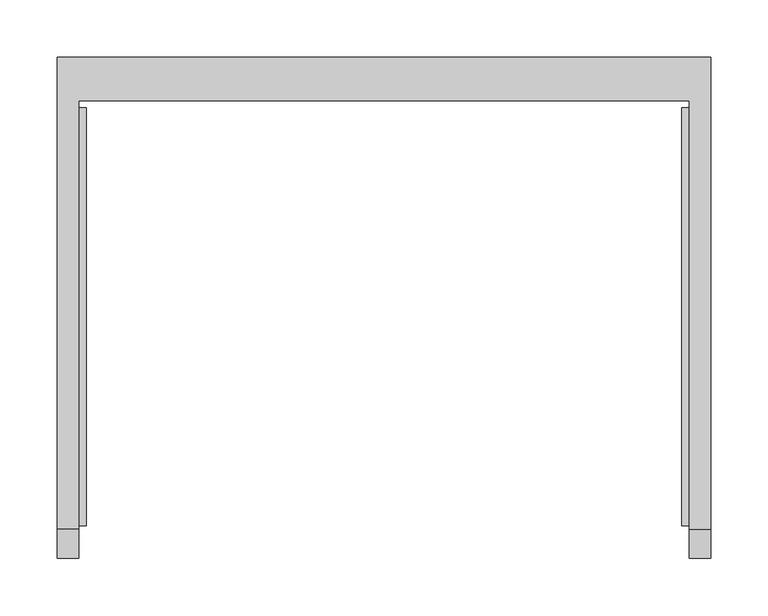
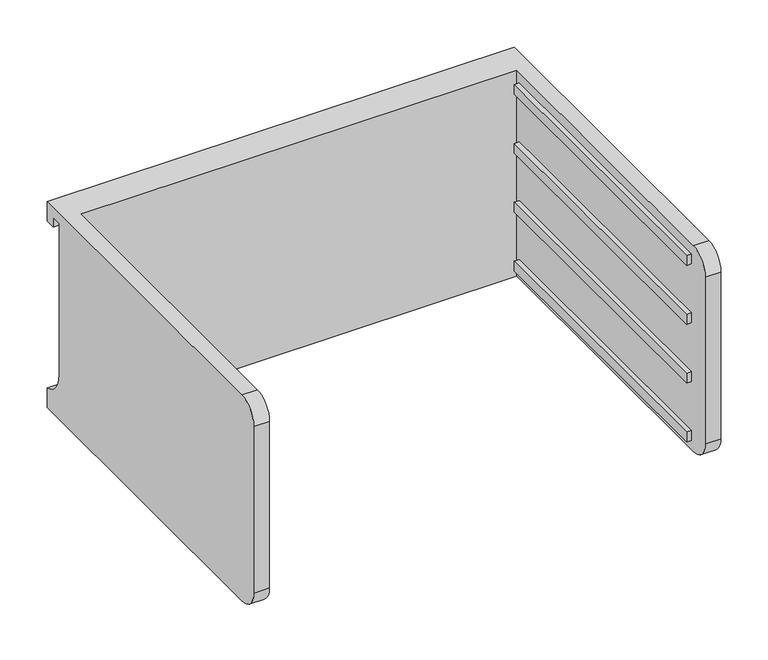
"""IFC4 building model written with IfcOpenShell, lengths in millimetres: furniture geometry."""

from ifc_helpers import new_model, si_unit, frame, origin, place, context, project, spatial, polyline, circle_curve, outline, extrude, source, transform, mapped, element, save
from ifc_brep_helpers import plane_surface, cylinder_surface, revolved_surface, advanced_brep


def furniture_2c2a0f93(model_context):
    return source(origin(), model_context, "Body", "SolidModel", [
        advanced_brep(
        [(-171.7622951, -331.6523397, 779.29232), (-171.7622951, -357.0523397, 753.89232), (-171.7622951, -357.0523397, 537.99232), (-171.7622951, -331.6523397, 512.59232), (-171.7622951, 43.0421197, 512.59232), (-171.7622951, 43.0421197, 779.29232), (-190.8122951, -331.6523397, 512.59232), (-190.8122951, -357.0523397, 537.99232), (-190.8122951, -357.0523397, 753.89232), (-190.8122951, -331.6523397, 779.29232), (-190.8122951, 81.0976603, 779.29232), (-190.8122951, 81.0976603, 753.89232), (-190.8122951, 68.4421197, 753.89232), (-190.8122951, 68.4421197, 766.59232), (-190.8122951, 55.7421197, 766.59232), (-190.8122951, 55.7421197, 570.53734), (-190.8122951, 81.0976603, 537.99232), (-190.8122951, 81.0976603, 512.59232), (380.6877049, 81.0976603, 512.59232), (380.6877049, -331.6523397, 512.59232), (361.6377049, -331.6523397, 512.59232), (361.6377049, 43.0421197, 512.59232), (361.6377049, 43.0421197, 779.29232), (361.6377049, -331.6523397, 779.29232), (380.6877049, -331.6523397, 779.29232), (380.6877049, 81.0976603, 779.29232), (380.6877049, 81.0976603, 537.99232), (380.6877049, 55.7421197, 570.53734), (380.6877049, 55.7421197, 766.59232), (380.6877049, 68.4421197, 766.59232), (380.6877049, 68.4421197, 753.89232), (380.6877049, 81.0976603, 753.89232), (380.6877049, -357.0523397, 753.89232), (380.6877049, -357.0523397, 537.99232), (361.6377049, -357.0523397, 537.99232), (361.6377049, -357.0523397, 753.89232)],
        [
            (0, 1, circle_curve(frame((-171.7622951, -331.6523397, 753.89232), z_axis=(1.0, 0.0, 0.0), x_axis=(0.0, 0.0, 1.0)), 25.4)),
            (1, 2),
            (2, 3, circle_curve(frame((-171.7622951, -331.6523397, 537.99232), z_axis=(1.0, 0.0, 0.0), x_axis=(0.0, 0.0, 1.0)), 25.4)),
            (3, 4),
            (4, 5),
            (5, 0),
            (6, 7, circle_curve(frame((-190.8122951, -331.6523397, 537.99232), z_axis=(-1.0, 0.0, 0.0), x_axis=(0.0, 0.0, 1.0)), 25.4)),
            (7, 8),
            (8, 9, circle_curve(frame((-190.8122951, -331.6523397, 753.89232), z_axis=(-1.0, 0.0, 0.0), x_axis=(0.0, 0.0, 1.0)), 25.4)),
            (9, 10),
            (10, 11),
            (11, 12),
            (12, 13),
            (13, 14),
            (14, 15),
            (15, 16, circle_curve(frame((-190.8122951, 89.3064162, 570.53734), z_axis=(1.0, 0.0, 0.0), x_axis=(0.0, 0.0, 1.0)), 33.5642965)),
            (16, 17),
            (17, 6),
            (0, 9),
            (8, 1),
            (7, 2),
            (6, 3),
            (17, 18),
            (18, 19),
            (19, 20),
            (20, 21),
            (21, 4),
            (5, 22),
            (22, 23),
            (23, 24),
            (24, 25),
            (25, 10),
            (18, 26),
            (26, 27, circle_curve(frame((380.6877049, 89.3064162, 570.53734), z_axis=(-1.0, 0.0, 0.0), x_axis=(0.0, 0.0, 1.0)), 33.5642965)),
            (27, 28),
            (28, 29),
            (29, 30),
            (30, 31),
            (31, 25),
            (24, 32, circle_curve(frame((380.6877049, -331.6523397, 753.89232), z_axis=(1.0, 0.0, 0.0), x_axis=(0.0, 0.0, 1.0)), 25.4)),
            (32, 33),
            (33, 19, circle_curve(frame((380.6877049, -331.6523397, 537.99232), z_axis=(1.0, 0.0, 0.0), x_axis=(0.0, 0.0, 1.0)), 25.4)),
            (16, 26),
            (15, 27),
            (14, 28),
            (13, 29),
            (12, 30),
            (11, 31),
            (21, 22),
            (20, 34, circle_curve(frame((361.6377049, -331.6523397, 537.99232), z_axis=(-1.0, 0.0, 0.0), x_axis=(0.0, 0.0, 1.0)), 25.4)),
            (34, 35),
            (35, 23, circle_curve(frame((361.6377049, -331.6523397, 753.89232), z_axis=(-1.0, 0.0, 0.0), x_axis=(0.0, 0.0, 1.0)), 25.4)),
            (35, 32),
            (34, 33),
        ],
        [
            plane_surface(frame((-171.7622951, -331.6523397, 779.29232), z_axis=(1.0, 0.0, 0.0), x_axis=(0.0, -1.0, 0.0))),
            plane_surface(frame((-190.8122951, -331.6523397, 779.29232), z_axis=(-1.0, 0.0, 0.0), x_axis=(0.0, 1.0, 0.0))),
            cylinder_surface(frame((-190.8122951, -331.6523397, 753.89232), z_axis=(1.0, 0.0, 0.0), x_axis=(0.0, 0.0, 1.0)), 25.4),
            plane_surface(frame((-171.7622951, -357.0523397, 753.89232), z_axis=(0.0, -1.0, 0.0), x_axis=(-1.0, 0.0, 0.0))),
            cylinder_surface(frame((-190.8122951, -331.6523397, 537.99232), z_axis=(1.0, 0.0, 0.0), x_axis=(0.0, 0.0, 1.0)), 25.4),
            plane_surface(frame((-171.7622951, -331.6523397, 512.59232), z_axis=(0.0, 0.0, -1.0), x_axis=(-1.0, 0.0, 0.0))),
            plane_surface(frame((-171.7622951, 43.0421197, 779.29232), z_axis=(0.0, 0.0, 1.0), x_axis=(-1.0, 0.0, 0.0))),
            plane_surface(frame((380.6877049, 81.0976603, 537.99232), z_axis=(1.0, 0.0, 0.0), x_axis=(0.0, 0.0, 1.0))),
            plane_surface(frame((380.6877049, 81.0976603, 512.59232), z_axis=(0.0, 1.0, 0.0), x_axis=(-1.0, 0.0, 0.0))),
            revolved_surface(polyline([(-190.8122951, 89.3064162, 604.1016364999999), (380.68770489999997, 89.3064162, 604.1016364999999)]), (-190.8122951, 89.3064162, 570.53734), (-1.0, 0.0, 0.0)),
            plane_surface(frame((380.6877049, 55.7421197, 570.53734), z_axis=(0.0, 1.0, 0.0), x_axis=(-1.0, 0.0, 0.0))),
            plane_surface(frame((380.6877049, 55.7421197, 766.59232), z_axis=(0.0, 0.0, -1.0), x_axis=(-1.0, 0.0, 0.0))),
            plane_surface(frame((380.6877049, 68.4421197, 766.59232), z_axis=(0.0, -1.0, 0.0), x_axis=(-1.0, 0.0, 0.0))),
            plane_surface(frame((380.6877049, 68.4421197, 753.89232), z_axis=(0.0, 0.0, -1.0), x_axis=(-1.0, 0.0, 0.0))),
            plane_surface(frame((380.6877049, 81.0976603, 753.89232), z_axis=(0.0, 1.0, 0.0), x_axis=(-1.0, 0.0, 0.0))),
            plane_surface(frame((380.6877049, 43.0421197, 779.29232), z_axis=(0.0, -1.0, 0.0), x_axis=(-1.0, 0.0, 0.0))),
            plane_surface(frame((361.6377049, -331.6523397, 779.29232), z_axis=(-1.0, 0.0, 0.0), x_axis=(0.0, 1.0, 0.0))),
            cylinder_surface(frame((361.6377049, -331.6523397, 753.89232), z_axis=(1.0, 0.0, 0.0), x_axis=(0.0, 0.0, 1.0)), 25.4),
            plane_surface(frame((380.6877049, -357.0523397, 753.89232), z_axis=(0.0, -1.0, 0.0), x_axis=(-1.0, 0.0, 0.0))),
            cylinder_surface(frame((361.6377049, -331.6523397, 537.99232), z_axis=(1.0, 0.0, 0.0), x_axis=(0.0, 0.0, 1.0)), 25.4),
        ],
        [
            (0, [[1, 2, 3, 4, 5, 6]]),
            (1, [[7, 8, 9, 10, 11, 12, 13, 14, 15, 16, 17, 18]]),
            (2, [[-1, 19, -9, 20]]),
            (3, [[-2, -20, -8, 21]]),
            (4, [[-3, -21, -7, 22]]),
            (5, [[-4, -22, -18, 23, 24, 25, 26, 27]]),
            (6, [[-6, 28, 29, 30, 31, 32, -10, -19]]),
            (7, [[-24, 33, 34, 35, 36, 37, 38, 39, -31, 40, 41, 42]]),
            (8, [[-33, -23, -17, 43]]),
            (9, [[-34, -43, -16, 44]]),
            (10, [[-35, -44, -15, 45]]),
            (11, [[-36, -45, -14, 46]]),
            (12, [[-37, -46, -13, 47]]),
            (13, [[-38, -47, -12, 48]]),
            (14, [[-39, -48, -11, -32]]),
            (15, [[-5, -27, 49, -28]]),
            (16, [[-29, -49, -26, 50, 51, 52]]),
            (17, [[-40, -30, -52, 53]]),
            (18, [[-41, -53, -51, 54]]),
            (19, [[-42, -54, -50, -25]]),
        ],
    ),
        extrude(outline(polyline([(355.2877049, -328.4773397), (355.2877049, 36.6921197), (361.6377049, 36.6921197), (361.6377049, -328.4773397), (355.2877049, -328.4773397)])), frame((0.0, 0.0, 601.49232), z_axis=(0.0, 0.0, 1.0), x_axis=(1.0, 0.0, 0.0)), (0.0, 0.0, 1.0), 12.7),
        extrude(outline(polyline([(355.2877049, -328.4773397), (355.2877049, 36.6921197), (361.6377049, 36.6921197), (361.6377049, -328.4773397), (355.2877049, -328.4773397)])), frame((0.0, 0.0, 677.69232), z_axis=(0.0, 0.0, 1.0), x_axis=(1.0, 0.0, 0.0)), (0.0, 0.0, 1.0), 12.7),
        extrude(outline(polyline([(355.2877049, -328.4773397), (355.2877049, 36.6921197), (361.6377049, 36.6921197), (361.6377049, -328.4773397), (355.2877049, -328.4773397)])), frame((0.0, 0.0, 753.89232), z_axis=(0.0, 0.0, 1.0), x_axis=(1.0, 0.0, 0.0)), (0.0, 0.0, 1.0), 12.7),
        extrude(outline(polyline([(355.2877049, -328.4773397), (355.2877049, 36.6921197), (361.6377049, 36.6921197), (361.6377049, -328.4773397), (355.2877049, -328.4773397)])), frame((0.0, 0.0, 525.29232), z_axis=(0.0, 0.0, 1.0), x_axis=(1.0, 0.0, 0.0)), (0.0, 0.0, 1.0), 12.7),
        extrude(outline(polyline([(-171.7622951, -328.4773397), (-171.7622951, 36.6921197), (-165.4122951, 36.6921197), (-165.4122951, -328.4773397), (-171.7622951, -328.4773397)])), frame((0.0, 0.0, 601.49232), z_axis=(0.0, 0.0, 1.0), x_axis=(1.0, 0.0, 0.0)), (0.0, 0.0, 1.0), 12.7),
        extrude(outline(polyline([(-171.7622951, -328.4773397), (-171.7622951, 36.6921197), (-165.4122951, 36.6921197), (-165.4122951, -328.4773397), (-171.7622951, -328.4773397)])), frame((0.0, 0.0, 677.69232), z_axis=(0.0, 0.0, 1.0), x_axis=(1.0, 0.0, 0.0)), (0.0, 0.0, 1.0), 12.7),
        extrude(outline(polyline([(-171.7622951, -328.4773397), (-171.7622951, 36.6921197), (-165.4122951, 36.6921197), (-165.4122951, -328.4773397), (-171.7622951, -328.4773397)])), frame((0.0, 0.0, 753.89232), z_axis=(0.0, 0.0, 1.0), x_axis=(1.0, 0.0, 0.0)), (0.0, 0.0, 1.0), 12.7),
        extrude(outline(polyline([(-171.7622951, -328.4773397), (-171.7622951, 36.6921197), (-165.4122951, 36.6921197), (-165.4122951, -328.4773397), (-171.7622951, -328.4773397)])), frame((0.0, 0.0, 525.29232), z_axis=(0.0, 0.0, 1.0), x_axis=(1.0, 0.0, 0.0)), (0.0, 0.0, 1.0), 12.7),
    ])


if __name__ == "__main__":
    model = new_model("IFC4")
    model_context = context("Model", 3, world=origin())
    ifc_project = project(units=[si_unit("LENGTHUNIT", "METRE", prefix="MILLI")], contexts=[model_context])
    site = spatial("IfcSite", under=ifc_project)
    building = spatial("IfcBuilding", under=site)
    placement = place(None, origin())
    furniture_shape = furniture_2c2a0f93(model_context)
    element("IfcFurniture", 1, ObjectType="HermanMiller_CoStruc_CO205_CFrame : 10\"H x 17\"D x 22\"W", at=placement, inside=building, context=model_context, shape_type="MappedRepresentation", body=[
        mapped(furniture_shape, transform((0.0, 0.0, 0.0), x_axis=(1.0, 0.0, 0.0), y_axis=(0.0, 1.0, 0.0), z_axis=(0.0, 0.0, 1.0))),
    ])
    save(model, "model.ifc")
